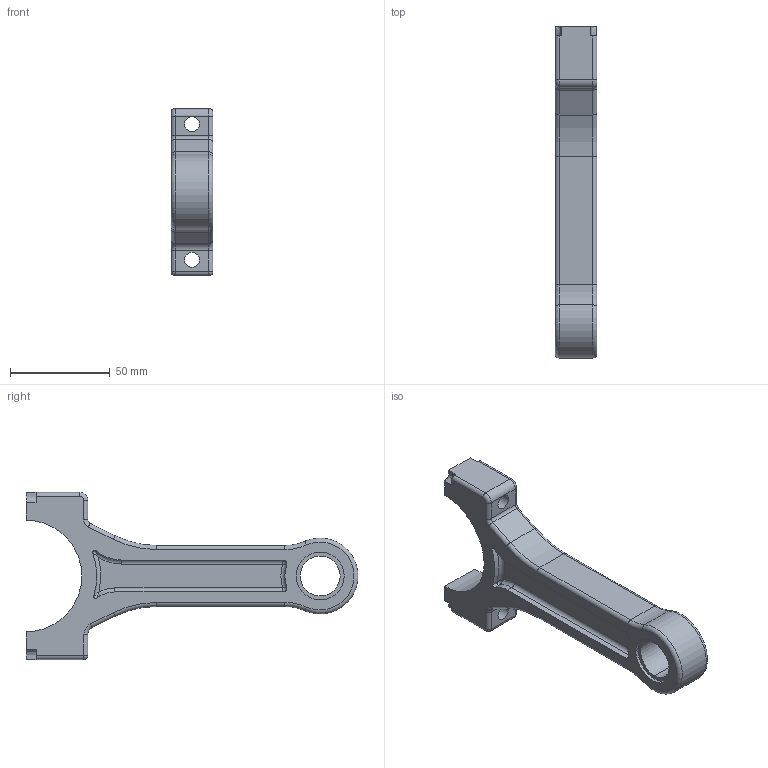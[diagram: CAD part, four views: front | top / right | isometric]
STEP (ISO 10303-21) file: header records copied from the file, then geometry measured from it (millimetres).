
FILE_DESCRIPTION(('CATIA V5 STEP Exchange'),'2;1');
FILE_NAME('E:\Ponnambalam\Projects\To Send\Demo Files\2. Group_Base_Mesh_Spec\Step 3 ApplyingGrpMshCtrlForSimilarParts\ConRod_WithPublications.stp','2011-01-19T11:31:56+00:00',('none'),('none'),'CATIA Version 5 Release 19 GA (IN-10)','CATIA V5 STEP AP214','none');
FILE_SCHEMA(('AUTOMOTIVE_DESIGN { 1 0 10303 214 1 1 1 1 }'));
Length unit declared in the file: millimetre
Products named in the file (1): Part1
Bounding box: 21 x 166.43 x 83.8 mm (x, y, z)
Volume: 96862.1 mm3; surface area: 25508.1 mm2
Topology: 1 solids, 1 shells, 122 faces, 296 edges, 170 vertices
Faces by surface type: cylinder 56, plane 28, torus 24, sphere 6, extrusion 4, bspline 4
Entity records: 4100 total; most frequent: CARTESIAN_POINT 1433, ORIENTED_EDGE 572, DIRECTION 458, EDGE_CURVE 286, AXIS2_PLACEMENT_3D 237, VERTEX_POINT 170, CIRCLE 144, EDGE_LOOP 132
